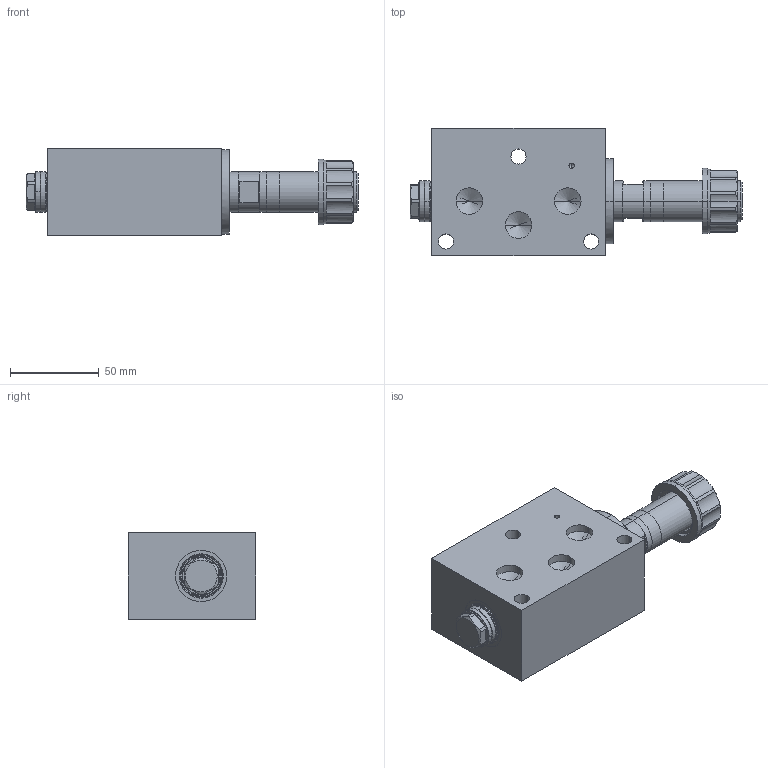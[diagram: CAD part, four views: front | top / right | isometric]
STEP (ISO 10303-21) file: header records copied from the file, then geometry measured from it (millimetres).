
FILE_DESCRIPTION (( 'STEP AP214' ), '1' );
FILE_NAME ('End Control Section CMVA-EA06-B actuation at B.STEP', '2025-11-12T13:59:34', ( '' ), ( '' ), 'SwSTEP 2.0', 'SolidWorks 2024', '' );
FILE_SCHEMA (( 'AUTOMOTIVE_DESIGN' ));
Length unit declared in the file: millimetre
Products named in the file (1): End Control Section CMVA-EA06-B actuation at B
Bounding box: 187.55 x 72 x 49 mm (x, y, z)
Volume: 357764.4 mm3; surface area: 66361.2 mm2
Topology: 14 solids, 14 shells, 947 faces, 2324 edges, 1430 vertices
Faces by surface type: plane 531, cylinder 174, cone 161, torus 56, bspline 25
Entity records: 28948 total; most frequent: CARTESIAN_POINT 6361, DIRECTION 4752, ORIENTED_EDGE 4576, EDGE_CURVE 2288, AXIS2_PLACEMENT_3D 1661, VECTOR 1430, VERTEX_POINT 1430, LINE 1430
